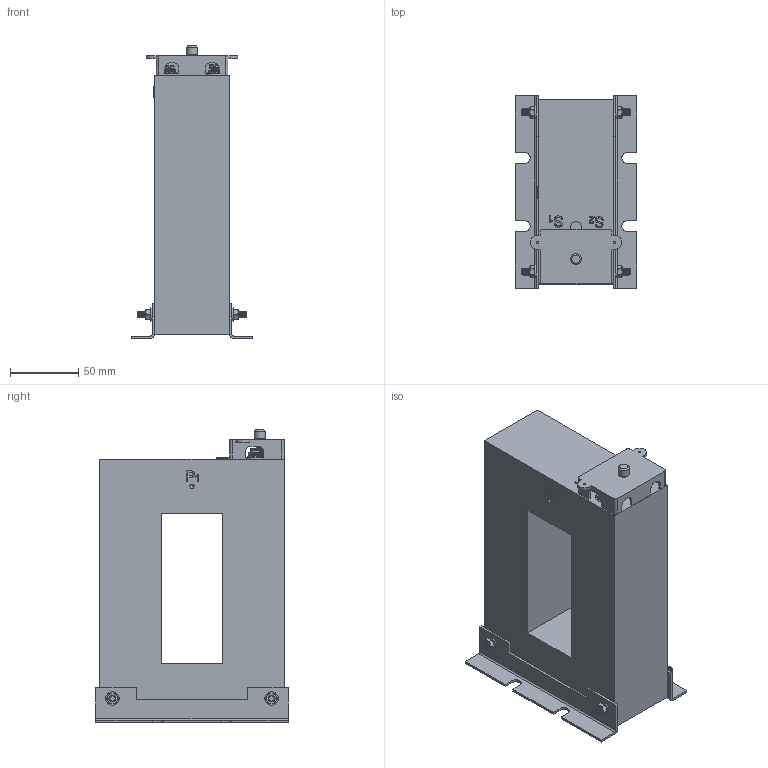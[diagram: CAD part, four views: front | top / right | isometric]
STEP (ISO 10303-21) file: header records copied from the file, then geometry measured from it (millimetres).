
FILE_DESCRIPTION(/* description */ (''),/* implementation_level */ '2;1');
FILE_NAME(/* name */ 'T:\EngMecanica\DESENHOS INVENTOR\Catalogo 2019\Arquivos STEP\KR-1145V - 1-1.stp',/* time_stamp */ '2025-10-03T15:31:32-03:00',/* author */ ('jose.luis'),/* organization */ (''),/* preprocessor_version */ 'ST-DEVELOPER v18.1',/* originating_system */ 'Autodesk Inventor 2021',/* authorisation */ '');
FILE_SCHEMA (('AUTOMOTIVE_DESIGN { 1 0 10303 214 3 1 1 }'));
Products named in the file (1): KR-1145V - 1-1
Bounding box: 89 x 141 x 214.4 mm (x, y, z)
Volume: 1165894.8 mm3; surface area: 129282.3 mm2
Topology: 32 solids, 32 shells, 628 faces, 1672 edges, 1107 vertices
Faces by surface type: cylinder 302, plane 206, cone 70, bspline 26, torus 22, sphere 2
Full cylindrical faces by diameter (mm): 1.7 x2, 3.9 x49, 4.29 x4, 4.9 x1, 5 x93, 6.8 x4, 7 x2, 8 x1, 10 x4, 11 x2, 13 x2
Entity records: 54933 total; most frequent: CARTESIAN_POINT 39246, ORIENTED_EDGE 3340, DIRECTION 2816, EDGE_CURVE 1670, VERTEX_POINT 1107, AXIS2_PLACEMENT_3D 1053, LINE 710, VECTOR 710
